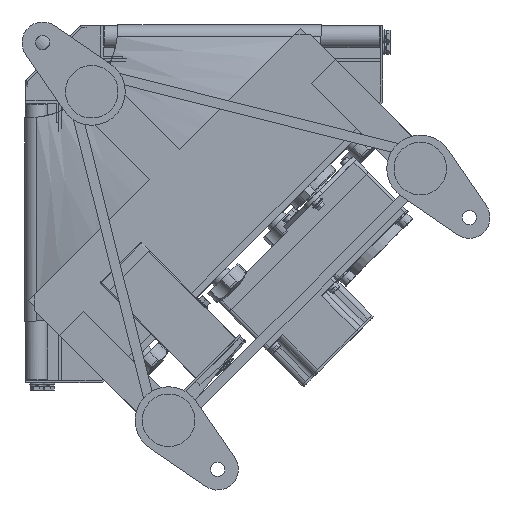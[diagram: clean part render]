
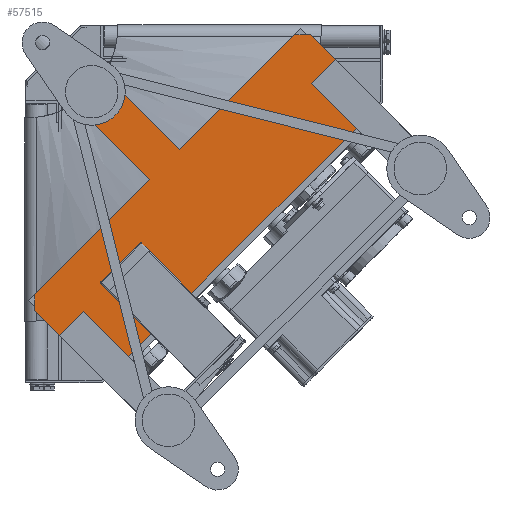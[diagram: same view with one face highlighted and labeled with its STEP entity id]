
A CAD part, front view. The second image highlights one B-rep face of the part: STEP entity #57515.
In plain terms, the highlighted planar face has unit normal (0, -1, 0).
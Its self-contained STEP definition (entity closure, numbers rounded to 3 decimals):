
#1261 = DIRECTION ( 'NONE',  ( -0.707, 0., -0.707 ) ) ;
#1866 = AXIS2_PLACEMENT_3D ( 'NONE', #7346, #2435, #24456 ) ;
#1947 = VECTOR ( 'NONE', #31898, 1000. ) ;
#2157 = ORIENTED_EDGE ( 'NONE', *, *, #45889, .T. ) ;
#2435 = DIRECTION ( 'NONE',  ( 0., -1., 0. ) ) ;
#2613 = LINE ( 'NONE', #47813, #27906 ) ;
#2937 = LINE ( 'NONE', #6688, #28212 ) ;
#3117 = LINE ( 'NONE', #14225, #57966 ) ;
#3248 = ORIENTED_EDGE ( 'NONE', *, *, #44294, .T. ) ;
#3504 = ORIENTED_EDGE ( 'NONE', *, *, #54522, .T. ) ;
#3656 = ORIENTED_EDGE ( 'NONE', *, *, #9394, .F. ) ;
#3692 = LINE ( 'NONE', #55098, #26177 ) ;
#4705 = CARTESIAN_POINT ( 'NONE',  ( 12.728, -167.5, -39.598 ) ) ;
#6688 = CARTESIAN_POINT ( 'NONE',  ( 259.155, -167.5, -8.132 ) ) ;
#7346 = CARTESIAN_POINT ( 'NONE',  ( 0., -167.5, 0. ) ) ;
#7670 = EDGE_CURVE ( 'NONE', #53854, #10722, #3117, .T. ) ;
#9394 = EDGE_CURVE ( 'NONE', #53378, #44633, #42459, .T. ) ;
#9701 = CARTESIAN_POINT ( 'NONE',  ( 8.132, -167.5, -245.012 ) ) ;
#9895 = EDGE_LOOP ( 'NONE', ( #39248, #3504, #32613, #52402, #14279, #3248, #2157, #37219, #18918, #3656 ) ) ;
#9981 = VECTOR ( 'NONE', #54434, 1000. ) ;
#10722 = VERTEX_POINT ( 'NONE', #49233 ) ;
#10838 = EDGE_CURVE ( 'NONE', #52106, #18180, #33978, .T. ) ;
#13456 = EDGE_CURVE ( 'NONE', #44633, #20587, #22127, .T. ) ;
#13926 = EDGE_CURVE ( 'NONE', #18180, #53854, #2613, .T. ) ;
#14225 = CARTESIAN_POINT ( 'NONE',  ( 71.771, -167.5, -322.794 ) ) ;
#14279 = ORIENTED_EDGE ( 'NONE', *, *, #7670, .T. ) ;
#16255 = VERTEX_POINT ( 'NONE', #55834 ) ;
#17436 = FACE_OUTER_BOUND ( 'NONE', #9895, .T. ) ;
#18079 = DIRECTION ( 'NONE',  ( 0.707, 0., 0.707 ) ) ;
#18180 = VERTEX_POINT ( 'NONE', #52898 ) ;
#18918 = ORIENTED_EDGE ( 'NONE', *, *, #13456, .F. ) ;
#19284 = VECTOR ( 'NONE', #52901, 1000. ) ;
#19883 = DIRECTION ( 'NONE',  ( -0.707, 0., 0.707 ) ) ;
#20182 = LINE ( 'NONE', #52427, #37832 ) ;
#20466 = CARTESIAN_POINT ( 'NONE',  ( 113.137, -167.5, -140.007 ) ) ;
#20587 = VERTEX_POINT ( 'NONE', #57541 ) ;
#21979 = VECTOR ( 'NONE', #18079, 1000. ) ;
#22127 = LINE ( 'NONE', #31087, #19284 ) ;
#23148 = VERTEX_POINT ( 'NONE', #20466 ) ;
#24456 = DIRECTION ( 'NONE',  ( 0., 0., -1. ) ) ;
#26177 = VECTOR ( 'NONE', #1261, 1000. ) ;
#26459 = VERTEX_POINT ( 'NONE', #26853 ) ;
#26853 = CARTESIAN_POINT ( 'NONE',  ( 245.012, -167.5, -8.132 ) ) ;
#27906 = VECTOR ( 'NONE', #30047, 1000. ) ;
#28212 = VECTOR ( 'NONE', #19883, 1000. ) ;
#28573 = EDGE_CURVE ( 'NONE', #26459, #20587, #3692, .T. ) ;
#29207 = LINE ( 'NONE', #39100, #37760 ) ;
#30047 = DIRECTION ( 'NONE',  ( 0.707, 0., -0.707 ) ) ;
#31087 = CARTESIAN_POINT ( 'NONE',  ( 39.598, -167.5, -12.728 ) ) ;
#31898 = DIRECTION ( 'NONE',  ( -0.707, 0., 0.707 ) ) ;
#32529 = CARTESIAN_POINT ( 'NONE',  ( 12.728, -167.5, -39.598 ) ) ;
#32613 = ORIENTED_EDGE ( 'NONE', *, *, #10838, .T. ) ;
#33290 = CARTESIAN_POINT ( 'NONE',  ( 71.771, -167.5, -322.794 ) ) ;
#33877 = DIRECTION ( 'NONE',  ( 0.707, 0., 0.707 ) ) ;
#33978 = LINE ( 'NONE', #45678, #9981 ) ;
#34157 = CARTESIAN_POINT ( 'NONE',  ( 39.598, -167.5, -12.728 ) ) ;
#36812 = EDGE_CURVE ( 'NONE', #23148, #53378, #51232, .T. ) ;
#37219 = ORIENTED_EDGE ( 'NONE', *, *, #28573, .T. ) ;
#37760 = VECTOR ( 'NONE', #52564, 1000. ) ;
#37832 = VECTOR ( 'NONE', #52836, 1000. ) ;
#39100 = CARTESIAN_POINT ( 'NONE',  ( 8.132, -167.5, -245.012 ) ) ;
#39248 = ORIENTED_EDGE ( 'NONE', *, *, #36812, .F. ) ;
#42459 = LINE ( 'NONE', #4705, #21979 ) ;
#44294 = EDGE_CURVE ( 'NONE', #10722, #16255, #2937, .T. ) ;
#44633 = VERTEX_POINT ( 'NONE', #34157 ) ;
#45678 = CARTESIAN_POINT ( 'NONE',  ( 8.132, -167.5, -259.155 ) ) ;
#45889 = EDGE_CURVE ( 'NONE', #16255, #26459, #20182, .T. ) ;
#47328 = PLANE ( 'NONE',  #1866 ) ;
#47813 = CARTESIAN_POINT ( 'NONE',  ( 8.132, -167.5, -259.155 ) ) ;
#49233 = CARTESIAN_POINT ( 'NONE',  ( 322.794, -167.5, -71.771 ) ) ;
#49239 = CARTESIAN_POINT ( 'NONE',  ( 12.728, -167.5, -39.598 ) ) ;
#51232 = LINE ( 'NONE', #49239, #1947 ) ;
#52106 = VERTEX_POINT ( 'NONE', #9701 ) ;
#52402 = ORIENTED_EDGE ( 'NONE', *, *, #13926, .T. ) ;
#52427 = CARTESIAN_POINT ( 'NONE',  ( 245.012, -167.5, -8.132 ) ) ;
#52564 = DIRECTION ( 'NONE',  ( -0.707, 0., -0.707 ) ) ;
#52836 = DIRECTION ( 'NONE',  ( -1., 0., 0. ) ) ;
#52898 = CARTESIAN_POINT ( 'NONE',  ( 8.132, -167.5, -259.155 ) ) ;
#52901 = DIRECTION ( 'NONE',  ( 0.707, 0., -0.707 ) ) ;
#53378 = VERTEX_POINT ( 'NONE', #32529 ) ;
#53854 = VERTEX_POINT ( 'NONE', #33290 ) ;
#54434 = DIRECTION ( 'NONE',  ( 0., 0., -1. ) ) ;
#54522 = EDGE_CURVE ( 'NONE', #23148, #52106, #29207, .T. ) ;
#55098 = CARTESIAN_POINT ( 'NONE',  ( 8.132, -167.5, -245.012 ) ) ;
#55834 = CARTESIAN_POINT ( 'NONE',  ( 259.155, -167.5, -8.132 ) ) ;
#57515 = ADVANCED_FACE ( 'NONE', ( #17436 ), #47328, .T. ) ;
#57541 = CARTESIAN_POINT ( 'NONE',  ( 140.007, -167.5, -113.137 ) ) ;
#57966 = VECTOR ( 'NONE', #33877, 1000. ) ;
